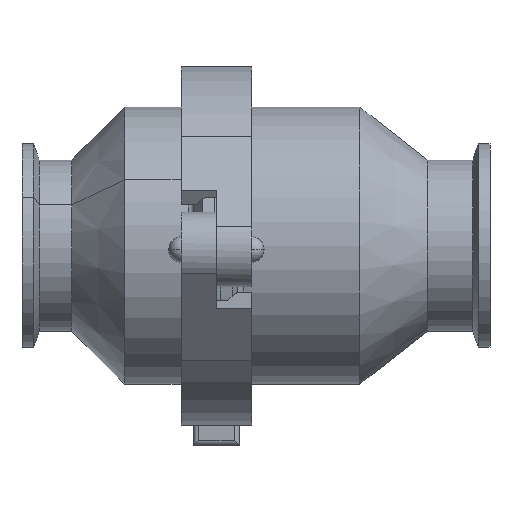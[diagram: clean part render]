
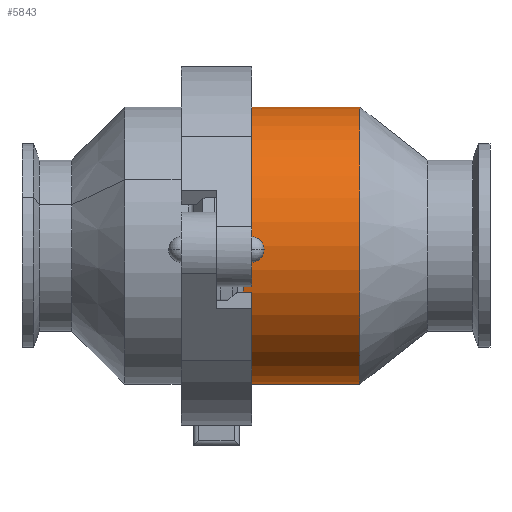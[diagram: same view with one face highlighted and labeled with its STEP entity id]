
A CAD part, left-side view. The second image highlights one B-rep face of the part: STEP entity #5843.
In plain terms, the highlighted cylindrical face has radius 34.29 mm (diameter 68.58 mm), a partial arc.
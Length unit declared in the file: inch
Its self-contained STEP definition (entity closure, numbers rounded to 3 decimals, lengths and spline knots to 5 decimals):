
#146 = CARTESIAN_POINT ( 'NONE',  ( 1.19082, 2.60024, 1.17187 ) ) ;
#277 = CARTESIAN_POINT ( 'NONE',  ( 1.19082, 1.22524, 1.17187 ) ) ;
#410 = VERTEX_POINT ( 'NONE', #9746 ) ;
#479 = DIRECTION ( 'NONE',  ( 0., -1., 0. ) ) ;
#529 = ORIENTED_EDGE ( 'NONE', *, *, #8839, .F. ) ;
#588 = AXIS2_PLACEMENT_3D ( 'NONE', #7826, #1967, #8805 ) ;
#1042 = CARTESIAN_POINT ( 'NONE',  ( 1.19082, 2.36302, 2.52187 ) ) ;
#1323 = CIRCLE ( 'NONE', #588, 1.35 ) ;
#1705 = ORIENTED_EDGE ( 'NONE', *, *, #12337, .F. ) ;
#1967 = DIRECTION ( 'NONE',  ( 0., -1., 0. ) ) ;
#2036 = DIRECTION ( 'NONE',  ( 0., 0., -1. ) ) ;
#2067 = CARTESIAN_POINT ( 'NONE',  ( 1.19082, 1.22524, 3.87187 ) ) ;
#2123 = EDGE_CURVE ( 'NONE', #410, #2198, #9936, .T. ) ;
#2198 = VERTEX_POINT ( 'NONE', #277 ) ;
#2807 = VERTEX_POINT ( 'NONE', #2067 ) ;
#3103 = DIRECTION ( 'NONE',  ( 0., -1., 0. ) ) ;
#3135 = EDGE_LOOP ( 'NONE', ( #529, #5574, #4382, #1705 ) ) ;
#3195 = AXIS2_PLACEMENT_3D ( 'NONE', #1042, #7903, #2036 ) ;
#4081 = VECTOR ( 'NONE', #479, 39.37008 ) ;
#4260 = CARTESIAN_POINT ( 'NONE',  ( 1.19082, 2.36302, 3.87187 ) ) ;
#4382 = ORIENTED_EDGE ( 'NONE', *, *, #2123, .T. ) ;
#4585 = VERTEX_POINT ( 'NONE', #4260 ) ;
#4784 = VECTOR ( 'NONE', #5052, 39.37008 ) ;
#5052 = DIRECTION ( 'NONE',  ( 0., -1., 0. ) ) ;
#5315 = AXIS2_PLACEMENT_3D ( 'NONE', #11884, #3103, #8959 ) ;
#5574 = ORIENTED_EDGE ( 'NONE', *, *, #7625, .T. ) ;
#5843 = ADVANCED_FACE ( 'NONE', ( #12425 ), #7251, .T. ) ;
#6380 = CARTESIAN_POINT ( 'NONE',  ( 1.19082, 2.60024, 3.87187 ) ) ;
#7251 = CYLINDRICAL_SURFACE ( 'NONE', #5315, 1.35 ) ;
#7625 = EDGE_CURVE ( 'NONE', #4585, #410, #10352, .T. ) ;
#7826 = CARTESIAN_POINT ( 'NONE',  ( 1.19082, 1.22524, 2.52187 ) ) ;
#7903 = DIRECTION ( 'NONE',  ( 0., -1., 0. ) ) ;
#8805 = DIRECTION ( 'NONE',  ( 0., 0., -1. ) ) ;
#8839 = EDGE_CURVE ( 'NONE', #4585, #2807, #12133, .T. ) ;
#8959 = DIRECTION ( 'NONE',  ( 0., 0., -1. ) ) ;
#9746 = CARTESIAN_POINT ( 'NONE',  ( 1.19082, 2.36302, 1.17187 ) ) ;
#9936 = LINE ( 'NONE', #146, #4784 ) ;
#10352 = CIRCLE ( 'NONE', #3195, 1.35 ) ;
#11884 = CARTESIAN_POINT ( 'NONE',  ( 1.19082, 2.60024, 2.52187 ) ) ;
#12133 = LINE ( 'NONE', #6380, #4081 ) ;
#12337 = EDGE_CURVE ( 'NONE', #2807, #2198, #1323, .T. ) ;
#12425 = FACE_OUTER_BOUND ( 'NONE', #3135, .T. ) ;
